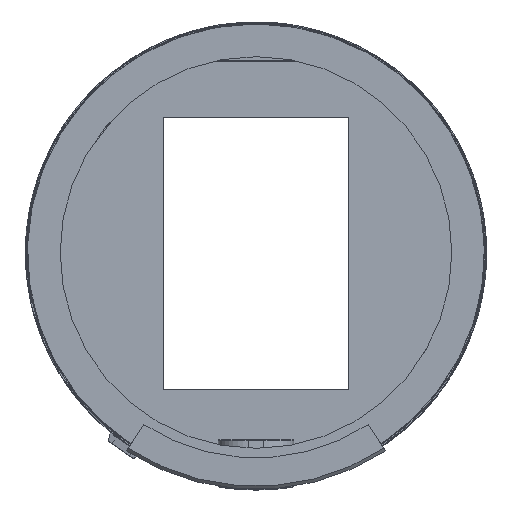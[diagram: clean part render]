
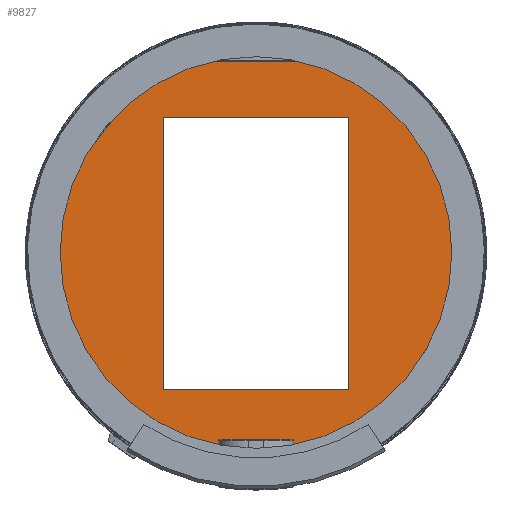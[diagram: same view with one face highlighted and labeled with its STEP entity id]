
A CAD part, top view. The second image highlights one B-rep face of the part: STEP entity #9827.
In plain terms, the highlighted planar face has unit normal (0, 0, 1).
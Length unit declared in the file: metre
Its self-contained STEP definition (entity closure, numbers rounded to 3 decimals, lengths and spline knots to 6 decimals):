
#9827=ADVANCED_FACE('',(#12866,#12867),#12868,.T.);
#12866=FACE_OUTER_BOUND('',#18137,.T.);
#12867=FACE_BOUND('',#18138,.T.);
#12868=PLANE('',#18139);
#18137=EDGE_LOOP('',(#45302,#45303,#45304,#45305,#45306,#45307,#45308,#45309));
#18138=EDGE_LOOP('',(#45310,#45311,#45312,#45313));
#18139=AXIS2_PLACEMENT_3D('',#45314,#45315,#45316);
#45302=ORIENTED_EDGE('',*,*,#57311,.T.);
#45303=ORIENTED_EDGE('',*,*,#57310,.T.);
#45304=ORIENTED_EDGE('',*,*,#57312,.T.);
#45305=ORIENTED_EDGE('',*,*,#57313,.T.);
#45306=ORIENTED_EDGE('',*,*,#57314,.T.);
#45307=ORIENTED_EDGE('',*,*,#57300,.T.);
#45308=ORIENTED_EDGE('',*,*,#57315,.T.);
#45309=ORIENTED_EDGE('',*,*,#57316,.T.);
#45310=ORIENTED_EDGE('',*,*,#57317,.T.);
#45311=ORIENTED_EDGE('',*,*,#57318,.T.);
#45312=ORIENTED_EDGE('',*,*,#57319,.T.);
#45313=ORIENTED_EDGE('',*,*,#57320,.T.);
#45314=CARTESIAN_POINT('',(0.,0.,-0.490538));
#45315=DIRECTION('',(0.0,0.0,1.0));
#45316=DIRECTION('',(1.0,0.0,0.0));
#57300=EDGE_CURVE('',#63299,#63305,#63307,.T.);
#57310=EDGE_CURVE('',#63317,#63324,#63326,.T.);
#57311=EDGE_CURVE('',#63327,#63317,#63328,.T.);
#57312=EDGE_CURVE('',#63324,#63329,#63330,.T.);
#57313=EDGE_CURVE('',#63329,#63311,#63331,.T.);
#57314=EDGE_CURVE('',#63311,#63299,#63332,.T.);
#57315=EDGE_CURVE('',#63305,#63333,#63334,.T.);
#57316=EDGE_CURVE('',#63333,#63327,#63335,.T.);
#57317=EDGE_CURVE('',#63336,#63337,#63338,.T.);
#57318=EDGE_CURVE('',#63337,#63339,#63340,.T.);
#57319=EDGE_CURVE('',#63339,#63341,#63342,.T.);
#57320=EDGE_CURVE('',#63341,#63336,#63343,.T.);
#63299=VERTEX_POINT('',#74013);
#63305=VERTEX_POINT('',#74022);
#63307=LINE('',#74025,#74026);
#63311=VERTEX_POINT('',#74031);
#63317=VERTEX_POINT('',#74040);
#63324=VERTEX_POINT('',#74051);
#63326=LINE('',#74054,#74055);
#63327=VERTEX_POINT('',#74056);
#63328=CIRCLE('',#74057,0.229743);
#63329=VERTEX_POINT('',#74058);
#63330=LINE('',#74059,#74060);
#63331=LINE('',#74061,#74062);
#63332=CIRCLE('',#74063,0.229743);
#63333=VERTEX_POINT('',#74064);
#63334=LINE('',#74065,#74066);
#63335=LINE('',#74067,#74068);
#63336=VERTEX_POINT('',#74069);
#63337=VERTEX_POINT('',#74070);
#63338=LINE('',#74071,#74072);
#63339=VERTEX_POINT('',#74073);
#63340=LINE('',#74074,#74075);
#63341=VERTEX_POINT('',#74076);
#63342=LINE('',#74077,#74078);
#63343=LINE('',#74079,#74080);
#74013=CARTESIAN_POINT('',(-0.219855,0.066675,-0.490538));
#74022=CARTESIAN_POINT('',(-0.213505,0.066675,-0.490538));
#74025=CARTESIAN_POINT('',(-0.219855,0.066675,-0.490538));
#74026=VECTOR('',#100191,1.0);
#74031=CARTESIAN_POINT('',(0.219855,0.066675,-0.490538));
#74040=CARTESIAN_POINT('',(0.219855,-0.066675,-0.490538));
#74051=CARTESIAN_POINT('',(0.213505,-0.066675,-0.490538));
#74054=CARTESIAN_POINT('',(0.219855,-0.066675,-0.490538));
#74055=VECTOR('',#100201,1.0);
#74056=CARTESIAN_POINT('',(-0.219855,-0.066675,-0.490538));
#74057=AXIS2_PLACEMENT_3D('',#100202,#100203,#100204);
#74058=CARTESIAN_POINT('',(0.213505,0.066675,-0.490538));
#74059=CARTESIAN_POINT('',(0.213505,-0.066675,-0.490538));
#74060=VECTOR('',#100205,1.0);
#74061=CARTESIAN_POINT('',(0.213505,0.066675,-0.490538));
#74062=VECTOR('',#100206,1.0);
#74063=AXIS2_PLACEMENT_3D('',#100207,#100208,#100209);
#74064=CARTESIAN_POINT('',(-0.213505,-0.066675,-0.490538));
#74065=CARTESIAN_POINT('',(-0.213505,0.066675,-0.490538));
#74066=VECTOR('',#100210,1.0);
#74067=CARTESIAN_POINT('',(-0.213505,-0.066675,-0.490538));
#74068=VECTOR('',#100211,1.0);
#74069=CARTESIAN_POINT('',(0.093015,0.137008,-0.490538));
#74070=CARTESIAN_POINT('',(0.093015,-0.137008,-0.490538));
#74071=CARTESIAN_POINT('',(0.093015,0.137008,-0.490538));
#74072=VECTOR('',#100212,1.0);
#74073=CARTESIAN_POINT('',(-0.093015,-0.137008,-0.490538));
#74074=CARTESIAN_POINT('',(0.093015,-0.137008,-0.490538));
#74075=VECTOR('',#100213,1.0);
#74076=CARTESIAN_POINT('',(-0.093015,0.137008,-0.490538));
#74077=CARTESIAN_POINT('',(-0.093015,-0.137008,-0.490538));
#74078=VECTOR('',#100214,1.0);
#74079=CARTESIAN_POINT('',(-0.093015,0.137008,-0.490538));
#74080=VECTOR('',#100215,1.0);
#100191=DIRECTION('',(1.0,0.0,0.0));
#100201=DIRECTION('',(-1.0,0.0,0.0));
#100202=CARTESIAN_POINT('',(0.,0.,-0.490538));
#100203=DIRECTION('',(0.0,0.0,1.0));
#100204=DIRECTION('',(1.0,0.0,0.0));
#100205=DIRECTION('',(0.,1.0,0.0));
#100206=DIRECTION('',(1.0,0.0,0.0));
#100207=CARTESIAN_POINT('',(0.0,0.0,-0.490538));
#100208=DIRECTION('',(0.0,0.0,1.0));
#100209=DIRECTION('',(1.0,0.0,0.0));
#100210=DIRECTION('',(0.,-1.0,0.0));
#100211=DIRECTION('',(-1.0,0.0,0.0));
#100212=DIRECTION('',(0.0,-1.0,0.0));
#100213=DIRECTION('',(-1.0,0.0,0.0));
#100214=DIRECTION('',(0.0,1.0,0.0));
#100215=DIRECTION('',(1.0,0.0,0.0));
